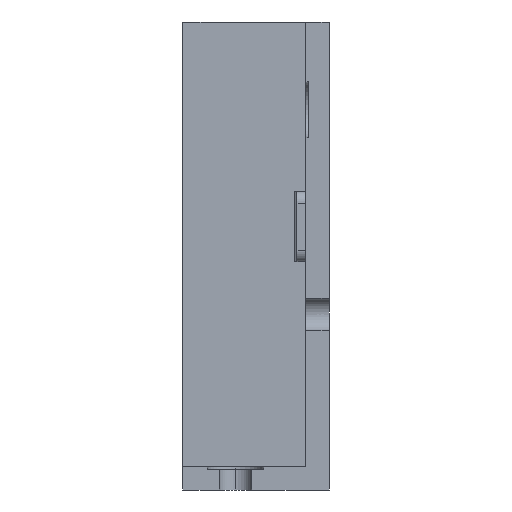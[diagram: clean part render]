
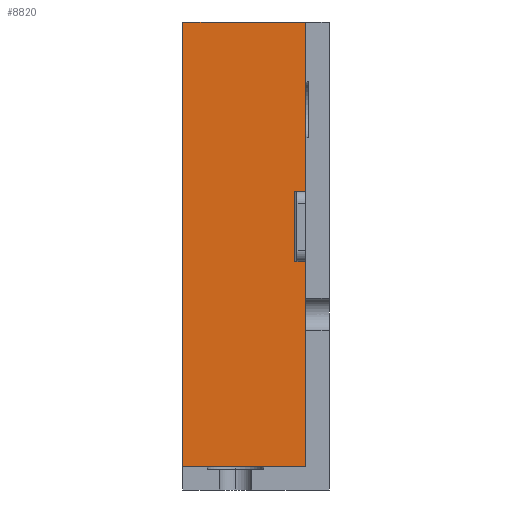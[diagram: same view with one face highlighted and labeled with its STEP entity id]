
A CAD part, left-side view. The second image highlights one B-rep face of the part: STEP entity #8820.
In plain terms, the highlighted planar face has unit normal (-1, 0, 0).
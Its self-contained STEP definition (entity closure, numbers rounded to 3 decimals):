
#393 = VECTOR ( 'NONE', #20156, 1000. ) ;
#558 = VERTEX_POINT ( 'NONE', #18673 ) ;
#1058 = LINE ( 'NONE', #15784, #23663 ) ;
#1463 = ORIENTED_EDGE ( 'NONE', *, *, #4118, .T. ) ;
#1944 = FACE_OUTER_BOUND ( 'NONE', #12835, .T. ) ;
#2817 = LINE ( 'NONE', #28391, #6322 ) ;
#2968 = DIRECTION ( 'NONE',  ( -1., 0., 0. ) ) ;
#2995 = VECTOR ( 'NONE', #15386, 1000. ) ;
#3227 = CARTESIAN_POINT ( 'NONE',  ( -61.5, 0., -37. ) ) ;
#3305 = LINE ( 'NONE', #22226, #17154 ) ;
#3389 = LINE ( 'NONE', #8901, #26355 ) ;
#4014 = ORIENTED_EDGE ( 'NONE', *, *, #21904, .T. ) ;
#4118 = EDGE_CURVE ( 'NONE', #5525, #8869, #3305, .T. ) ;
#4159 = CARTESIAN_POINT ( 'NONE',  ( -61.5, -21., -2. ) ) ;
#4421 = ORIENTED_EDGE ( 'NONE', *, *, #17506, .F. ) ;
#4878 = VECTOR ( 'NONE', #19616, 1000. ) ;
#5525 = VERTEX_POINT ( 'NONE', #12027 ) ;
#6322 = VECTOR ( 'NONE', #21935, 1000. ) ;
#6555 = CARTESIAN_POINT ( 'NONE',  ( -61.5, -19.5, 10. ) ) ;
#7188 = DIRECTION ( 'NONE',  ( 0., 0., 1. ) ) ;
#8443 = CARTESIAN_POINT ( 'NONE',  ( -61.5, -21., -37. ) ) ;
#8820 = ADVANCED_FACE ( 'NONE', ( #1944 ), #25143, .T. ) ;
#8869 = VERTEX_POINT ( 'NONE', #20774 ) ;
#8901 = CARTESIAN_POINT ( 'NONE',  ( -61.5, -19.5, -2. ) ) ;
#10038 = EDGE_CURVE ( 'NONE', #8869, #28338, #22270, .T. ) ;
#10072 = LINE ( 'NONE', #3227, #23276 ) ;
#10458 = ORIENTED_EDGE ( 'NONE', *, *, #16633, .T. ) ;
#10760 = DIRECTION ( 'NONE',  ( 0., -1., 0. ) ) ;
#11809 = VERTEX_POINT ( 'NONE', #4159 ) ;
#12027 = CARTESIAN_POINT ( 'NONE',  ( -61.5, -19., -2. ) ) ;
#12835 = EDGE_LOOP ( 'NONE', ( #10458, #28763, #15858, #4014, #4421, #1463, #18898, #13907 ) ) ;
#13192 = VERTEX_POINT ( 'NONE', #27359 ) ;
#13907 = ORIENTED_EDGE ( 'NONE', *, *, #16840, .T. ) ;
#15386 = DIRECTION ( 'NONE',  ( 0., 0., 1. ) ) ;
#15521 = VERTEX_POINT ( 'NONE', #17664 ) ;
#15784 = CARTESIAN_POINT ( 'NONE',  ( -61.5, -21., 39. ) ) ;
#15858 = ORIENTED_EDGE ( 'NONE', *, *, #28101, .F. ) ;
#15998 = CARTESIAN_POINT ( 'NONE',  ( -61.5, -21., 39. ) ) ;
#16633 = EDGE_CURVE ( 'NONE', #22794, #558, #1058, .T. ) ;
#16840 = EDGE_CURVE ( 'NONE', #28338, #22794, #20158, .T. ) ;
#17154 = VECTOR ( 'NONE', #22132, 1000. ) ;
#17216 = EDGE_CURVE ( 'NONE', #15521, #558, #10072, .T. ) ;
#17484 = CARTESIAN_POINT ( 'NONE',  ( -61.5, -21., -37. ) ) ;
#17506 = EDGE_CURVE ( 'NONE', #5525, #11809, #3389, .T. ) ;
#17664 = CARTESIAN_POINT ( 'NONE',  ( -61.5, 0., -37. ) ) ;
#18673 = CARTESIAN_POINT ( 'NONE',  ( -61.5, 0., 39. ) ) ;
#18751 = DIRECTION ( 'NONE',  ( 0., 0., 1. ) ) ;
#18898 = ORIENTED_EDGE ( 'NONE', *, *, #10038, .T. ) ;
#19616 = DIRECTION ( 'NONE',  ( 0., 0., 1. ) ) ;
#20064 = LINE ( 'NONE', #8443, #2995 ) ;
#20156 = DIRECTION ( 'NONE',  ( 0., -1., 0. ) ) ;
#20158 = LINE ( 'NONE', #17484, #4878 ) ;
#20774 = CARTESIAN_POINT ( 'NONE',  ( -61.5, -19., 10. ) ) ;
#21904 = EDGE_CURVE ( 'NONE', #13192, #11809, #20064, .T. ) ;
#21935 = DIRECTION ( 'NONE',  ( 0., 1., 0. ) ) ;
#22132 = DIRECTION ( 'NONE',  ( 0., 0., 1. ) ) ;
#22226 = CARTESIAN_POINT ( 'NONE',  ( -61.5, -19., -37. ) ) ;
#22243 = AXIS2_PLACEMENT_3D ( 'NONE', #24963, #2968, #7188 ) ;
#22270 = LINE ( 'NONE', #6555, #393 ) ;
#22723 = DIRECTION ( 'NONE',  ( 0., 1., 0. ) ) ;
#22794 = VERTEX_POINT ( 'NONE', #15998 ) ;
#23276 = VECTOR ( 'NONE', #18751, 1000. ) ;
#23663 = VECTOR ( 'NONE', #22723, 1000. ) ;
#24963 = CARTESIAN_POINT ( 'NONE',  ( -61.5, -21., -37. ) ) ;
#25143 = PLANE ( 'NONE',  #22243 ) ;
#25172 = CARTESIAN_POINT ( 'NONE',  ( -61.5, -21., 10. ) ) ;
#26355 = VECTOR ( 'NONE', #10760, 1000. ) ;
#27359 = CARTESIAN_POINT ( 'NONE',  ( -61.5, -21., -37. ) ) ;
#28101 = EDGE_CURVE ( 'NONE', #13192, #15521, #2817, .T. ) ;
#28338 = VERTEX_POINT ( 'NONE', #25172 ) ;
#28391 = CARTESIAN_POINT ( 'NONE',  ( -61.5, -21., -37. ) ) ;
#28763 = ORIENTED_EDGE ( 'NONE', *, *, #17216, .F. ) ;
